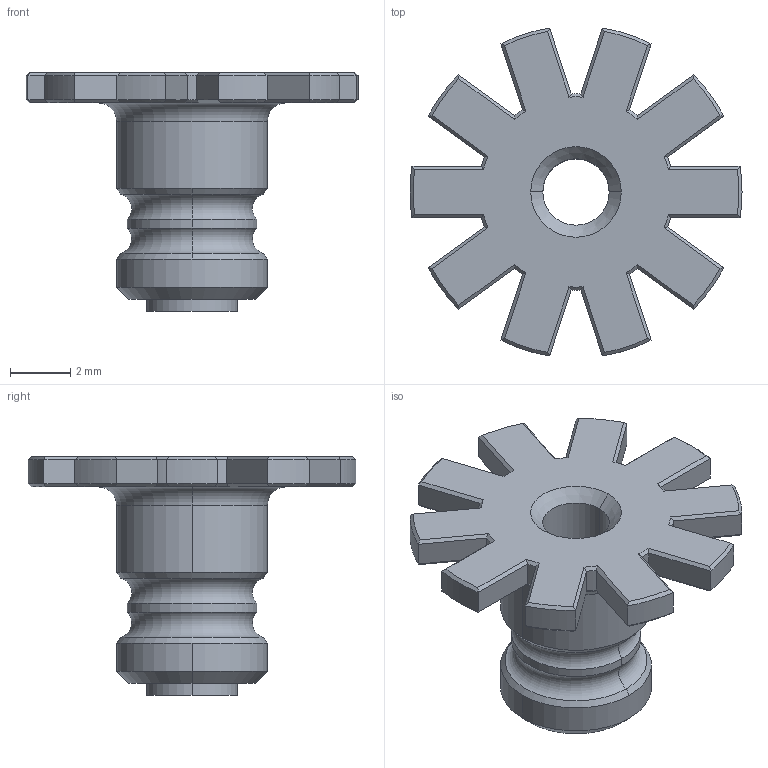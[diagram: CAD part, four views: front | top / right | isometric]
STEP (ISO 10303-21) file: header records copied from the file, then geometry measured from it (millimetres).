
FILE_DESCRIPTION((''),'2;1');
FILE_NAME('000_17_GGG','2025-04-09T12:17:37',('Administrator'),(''),'CREO PARAMETRIC BY PTC INC, 2024063','CREO PARAMETRIC BY PTC INC, 2024063','');
FILE_SCHEMA(('CONFIG_CONTROL_DESIGN'));
Length unit declared in the file: millimetre
Products named in the file (1): 000_17_GGG
Bounding box: 11 x 10.86 x 7.9 mm (x, y, z)
Volume: 158.8 mm3; surface area: 347.3 mm2
Topology: 1 solids, 1 shells, 148 faces, 370 edges, 226 vertices
Faces by surface type: plane 64, cone 48, cylinder 30, torus 6
Entity records: 4664 total; most frequent: CARTESIAN_POINT 1136, ORIENTED_EDGE 740, DIRECTION 738, EDGE_CURVE 370, AXIS2_PLACEMENT_3D 300, VERTEX_POINT 226, EDGE_LOOP 152, CIRCLE 152
